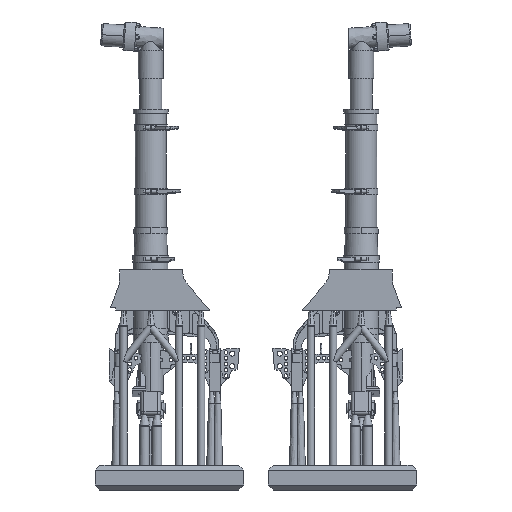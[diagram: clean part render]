
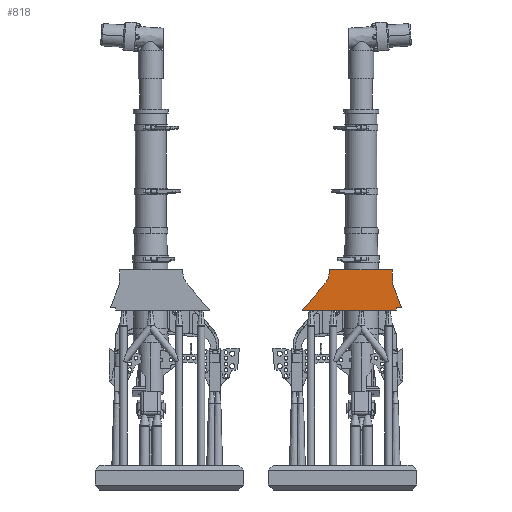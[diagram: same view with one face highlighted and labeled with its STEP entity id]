
A CAD part, front view. The second image highlights one B-rep face of the part: STEP entity #818.
In plain terms, the highlighted planar face has unit normal (0, -1, 0).
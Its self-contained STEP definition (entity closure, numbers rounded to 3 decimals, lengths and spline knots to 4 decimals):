
#818=ADVANCED_FACE('',(#4090),#52768,.T.);
#4090=FACE_OUTER_BOUND('',#7427,.T.);
#7427=EDGE_LOOP('',(#12902,#12903,#12904,#12905,#12906,#12907,#12908,#12909,
#12910));
#12902=ORIENTED_EDGE('',*,*,#29440,.T.);
#12903=ORIENTED_EDGE('',*,*,#29444,.T.);
#12904=ORIENTED_EDGE('',*,*,#29447,.T.);
#12905=ORIENTED_EDGE('',*,*,#29450,.T.);
#12906=ORIENTED_EDGE('',*,*,#29453,.T.);
#12907=ORIENTED_EDGE('',*,*,#29456,.T.);
#12908=ORIENTED_EDGE('',*,*,#29459,.T.);
#12909=ORIENTED_EDGE('',*,*,#29462,.T.);
#12910=ORIENTED_EDGE('',*,*,#29465,.T.);
#29440=EDGE_CURVE('',#46729,#46730,#42429,.T.);
#29444=EDGE_CURVE('',#46730,#46733,#42433,.T.);
#29447=EDGE_CURVE('',#46733,#46735,#42436,.T.);
#29450=EDGE_CURVE('',#46735,#46737,#42439,.T.);
#29453=EDGE_CURVE('',#46737,#46739,#42442,.T.);
#29456=EDGE_CURVE('',#46739,#46741,#42445,.T.);
#29459=EDGE_CURVE('',#46741,#46743,#42448,.T.);
#29462=EDGE_CURVE('',#46743,#46745,#42451,.T.);
#29465=EDGE_CURVE('',#46745,#46729,#42454,.T.);
#42429=(
BOUNDED_CURVE()
B_SPLINE_CURVE(3,(#77211,#77212,#77213,#77214),.UNSPECIFIED.,.F.,.F.)
B_SPLINE_CURVE_WITH_KNOTS((4,4),(9.6981,17.311),
 .UNSPECIFIED.)
CURVE()
GEOMETRIC_REPRESENTATION_ITEM()
RATIONAL_B_SPLINE_CURVE((1.,1.,1.,1.))
REPRESENTATION_ITEM('')
);
#42433=(
BOUNDED_CURVE()
B_SPLINE_CURVE(3,(#77223,#77224,#77225,#77226),.UNSPECIFIED.,.F.,.F.)
B_SPLINE_CURVE_WITH_KNOTS((4,4),(17.311,17.541),
 .UNSPECIFIED.)
CURVE()
GEOMETRIC_REPRESENTATION_ITEM()
RATIONAL_B_SPLINE_CURVE((1.,1.,1.,1.))
REPRESENTATION_ITEM('')
);
#42436=(
BOUNDED_CURVE()
B_SPLINE_CURVE(3,(#77233,#77234,#77235,#77236),.UNSPECIFIED.,.F.,.F.)
B_SPLINE_CURVE_WITH_KNOTS((4,4),(17.541,17.961),
 .UNSPECIFIED.)
CURVE()
GEOMETRIC_REPRESENTATION_ITEM()
RATIONAL_B_SPLINE_CURVE((1.,1.,1.,1.))
REPRESENTATION_ITEM('')
);
#42439=(
BOUNDED_CURVE()
B_SPLINE_CURVE(3,(#77243,#77244,#77245,#77246),.UNSPECIFIED.,.F.,.F.)
B_SPLINE_CURVE_WITH_KNOTS((4,4),(17.961,19.7624),
 .UNSPECIFIED.)
CURVE()
GEOMETRIC_REPRESENTATION_ITEM()
RATIONAL_B_SPLINE_CURVE((1.,1.,1.,1.))
REPRESENTATION_ITEM('')
);
#42442=(
BOUNDED_CURVE()
B_SPLINE_CURVE(3,(#77253,#77254,#77255,#77256),.UNSPECIFIED.,.F.,.F.)
B_SPLINE_CURVE_WITH_KNOTS((4,4),(19.7624,20.7624),
 .UNSPECIFIED.)
CURVE()
GEOMETRIC_REPRESENTATION_ITEM()
RATIONAL_B_SPLINE_CURVE((1.,1.,1.,1.))
REPRESENTATION_ITEM('')
);
#42445=(
BOUNDED_CURVE()
B_SPLINE_CURVE(3,(#77263,#77264,#77265,#77266),.UNSPECIFIED.,.F.,.F.)
B_SPLINE_CURVE_WITH_KNOTS((4,4),(20.7624,21.3824),
 .UNSPECIFIED.)
CURVE()
GEOMETRIC_REPRESENTATION_ITEM()
RATIONAL_B_SPLINE_CURVE((1.,1.,1.,1.))
REPRESENTATION_ITEM('')
);
#42448=(
BOUNDED_CURVE()
B_SPLINE_CURVE(3,(#77273,#77274,#77275,#77276),.UNSPECIFIED.,.F.,.F.)
B_SPLINE_CURVE_WITH_KNOTS((4,4),(21.3824,26.4424),
 .UNSPECIFIED.)
CURVE()
GEOMETRIC_REPRESENTATION_ITEM()
RATIONAL_B_SPLINE_CURVE((1.,1.,1.,1.))
REPRESENTATION_ITEM('')
);
#42451=(
BOUNDED_CURVE()
B_SPLINE_CURVE(3,(#77283,#77284,#77285,#77286),.UNSPECIFIED.,.F.,.F.)
B_SPLINE_CURVE_WITH_KNOTS((4,4),(26.4424,27.8661),
 .UNSPECIFIED.)
CURVE()
GEOMETRIC_REPRESENTATION_ITEM()
RATIONAL_B_SPLINE_CURVE((1.,0.961,0.961,1.))
REPRESENTATION_ITEM('')
);
#42454=(
BOUNDED_CURVE()
B_SPLINE_CURVE(3,(#77293,#77294,#77295,#77296),.UNSPECIFIED.,.F.,.F.)
B_SPLINE_CURVE_WITH_KNOTS((4,4),(27.8661,30.4804),
 .UNSPECIFIED.)
CURVE()
GEOMETRIC_REPRESENTATION_ITEM()
RATIONAL_B_SPLINE_CURVE((1.,1.,1.,1.))
REPRESENTATION_ITEM('')
);
#46729=VERTEX_POINT('',#70735);
#46730=VERTEX_POINT('',#70736);
#46733=VERTEX_POINT('',#70739);
#46735=VERTEX_POINT('',#70741);
#46737=VERTEX_POINT('',#70743);
#46739=VERTEX_POINT('',#70745);
#46741=VERTEX_POINT('',#70747);
#46743=VERTEX_POINT('',#70749);
#46745=VERTEX_POINT('',#70751);
#52768=PLANE('',#55649);
#55649=AXIS2_PLACEMENT_3D('',#67053,#58162,$);
#58162=DIRECTION('',(0.,-1.,0.));
#67053=CARTESIAN_POINT('',(2.713,-2.1,14.1));
#70735=CARTESIAN_POINT('',(3.7171,-2.1,14.51));
#70736=CARTESIAN_POINT('',(11.33,-2.1,14.51));
#70739=CARTESIAN_POINT('',(11.33,-2.1,14.74));
#70741=CARTESIAN_POINT('',(11.75,-2.1,14.74));
#70743=CARTESIAN_POINT('',(11.1,-2.1,16.42));
#70745=CARTESIAN_POINT('',(11.01,-2.1,17.17));
#70747=CARTESIAN_POINT('',(11.01,-2.1,17.79));
#70749=CARTESIAN_POINT('',(5.95,-2.1,17.79));
#70751=CARTESIAN_POINT('',(5.4419,-2.1,16.49));
#77211=CARTESIAN_POINT('',(3.7171,-2.1,14.51));
#77212=CARTESIAN_POINT('',(6.2547,-2.1,14.51));
#77213=CARTESIAN_POINT('',(8.7924,-2.1,14.51));
#77214=CARTESIAN_POINT('',(11.33,-2.1,14.51));
#77223=CARTESIAN_POINT('',(11.33,-2.1,14.51));
#77224=CARTESIAN_POINT('',(11.33,-2.1,14.5867));
#77225=CARTESIAN_POINT('',(11.33,-2.1,14.6633));
#77226=CARTESIAN_POINT('',(11.33,-2.1,14.74));
#77233=CARTESIAN_POINT('',(11.33,-2.1,14.74));
#77234=CARTESIAN_POINT('',(11.47,-2.1,14.74));
#77235=CARTESIAN_POINT('',(11.61,-2.1,14.74));
#77236=CARTESIAN_POINT('',(11.75,-2.1,14.74));
#77243=CARTESIAN_POINT('',(11.75,-2.1,14.74));
#77244=CARTESIAN_POINT('',(11.5333,-2.1,15.3));
#77245=CARTESIAN_POINT('',(11.3167,-2.1,15.86));
#77246=CARTESIAN_POINT('',(11.1,-2.1,16.42));
#77253=CARTESIAN_POINT('',(11.1,-2.1,16.42));
#77254=CARTESIAN_POINT('',(11.0251,-2.1,16.6135));
#77255=CARTESIAN_POINT('',(11.01,-2.1,16.9555));
#77256=CARTESIAN_POINT('',(11.01,-2.1,17.17));
#77263=CARTESIAN_POINT('',(11.01,-2.1,17.17));
#77264=CARTESIAN_POINT('',(11.01,-2.1,17.3767));
#77265=CARTESIAN_POINT('',(11.01,-2.1,17.5833));
#77266=CARTESIAN_POINT('',(11.01,-2.1,17.79));
#77273=CARTESIAN_POINT('',(11.01,-2.1,17.79));
#77274=CARTESIAN_POINT('',(9.3233,-2.1,17.79));
#77275=CARTESIAN_POINT('',(7.6367,-2.1,17.79));
#77276=CARTESIAN_POINT('',(5.95,-2.1,17.79));
#77283=CARTESIAN_POINT('',(5.95,-2.1,17.79));
#77284=CARTESIAN_POINT('',(5.9362,-2.1,17.306));
#77285=CARTESIAN_POINT('',(5.7599,-2.1,16.8551));
#77286=CARTESIAN_POINT('',(5.4419,-2.1,16.49));
#77293=CARTESIAN_POINT('',(5.4419,-2.1,16.49));
#77294=CARTESIAN_POINT('',(4.8669,-2.1,15.83));
#77295=CARTESIAN_POINT('',(4.292,-2.1,15.17));
#77296=CARTESIAN_POINT('',(3.7171,-2.1,14.51));
